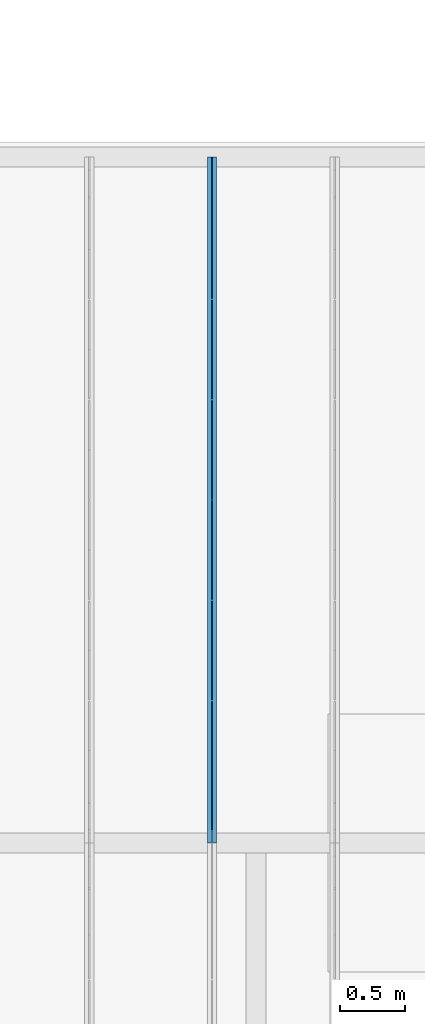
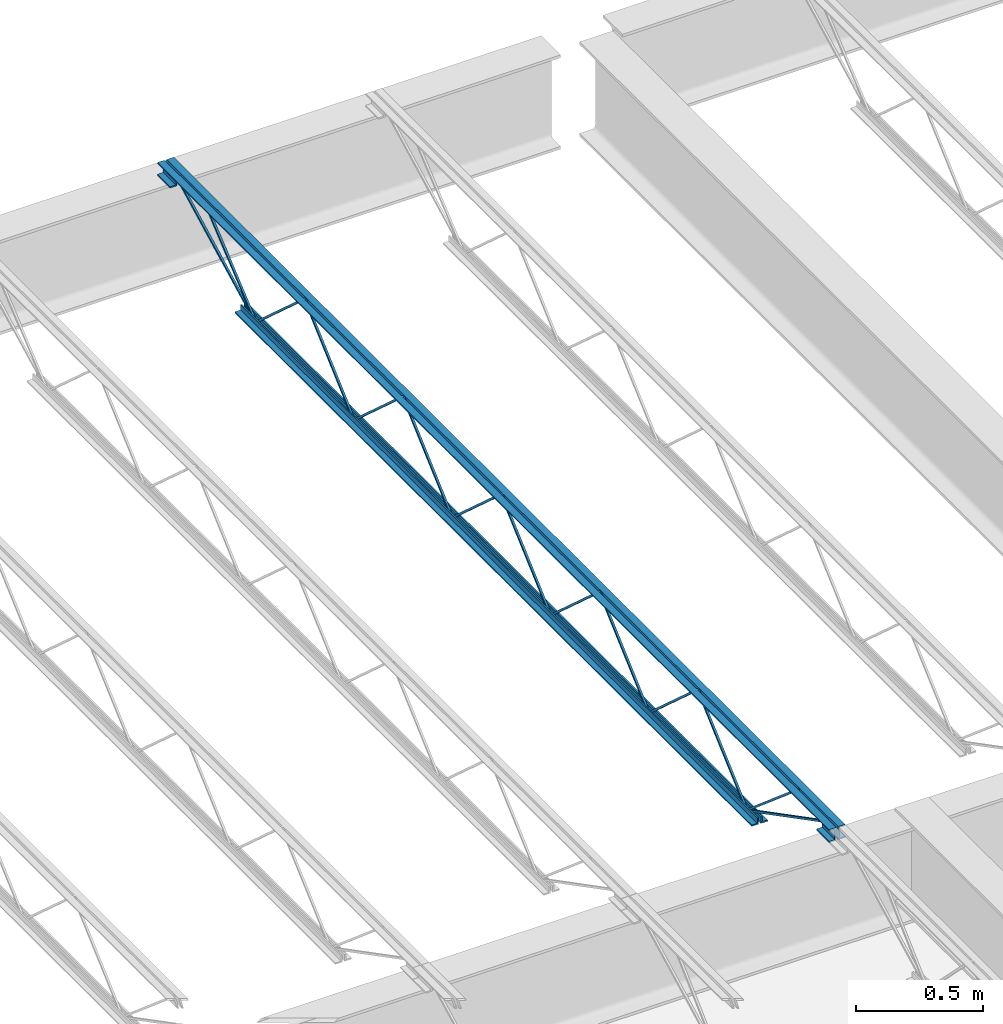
# One storey, part 70 of 75: 1 beam.
"""IFC2X3 building model written with IfcOpenShell, lengths in metres."""

from ifc_helpers import new_model, entity, si_unit, converted_unit, frame, origin, place, context, project, spatial, face_set, surface_model, element, save


model = new_model("IFC2X3")

# Units and contexts
model_context = context("Model", 3, precision=1e-09, world=origin())
plan_context = context("Plan", 3, precision=1e-09, world=origin())
ifc_project = project(units=[si_unit("LENGTHUNIT", "METRE"), si_unit("AREAUNIT", "SQUARE_METRE"), si_unit("VOLUMEUNIT", "CUBIC_METRE"), converted_unit("PLANEANGLEUNIT", "DEGREE", entity("IfcRatioMeasure", 0.01745329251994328), si_unit("PLANEANGLEUNIT", "RADIAN"), dimensions=[0, 0, 0, 0, 0, 0, 0]), si_unit("TIMEUNIT", "SECOND")], contexts=[model_context, plan_context])

# Site, building, storey
site_placement = place(None, origin())
site = spatial("IfcSite", under=ifc_project, at=site_placement, Name="Default", CompositionType="ELEMENT")
building_placement = place(site_placement, origin())
building = spatial("IfcBuilding", under=site, at=building_placement, CompositionType="ELEMENT")
storey_placement = place(building_placement, origin())
storey = spatial("IfcBuildingStorey", under=building, at=storey_placement, Name="First Floor", CompositionType="ELEMENT", Elevation=-3.531500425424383e-13)

# Beam
beam_placement = place(storey_placement, frame((-9.21674374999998, 44.78049999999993, 4.112000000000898), z_axis=(0.0, 0.0, 1.0), x_axis=(-1.0, 0.0, 0.0)))
element("IfcBeam", 1, at=beam_placement, inside=storey, Name="M_K-Series Bar Joist-Rod Web:14K1:14K1", ObjectType="M_K-Series Bar Joist-Rod Web:14K1", context=model_context, shape_type="SurfaceModel", body=[
    surface_model("IfcFaceBasedSurfaceModel", [(-0.03200000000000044, -2.266000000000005, 0.01110000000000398), (-0.04150000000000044, -2.266000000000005, 0.01110000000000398), (-0.04150000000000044, -2.266000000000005, 0.001600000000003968), (-0.03200000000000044, -2.266000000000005, 0.001600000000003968), (-0.04150000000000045, -2.264645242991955, 0.01110000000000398), (-0.03200000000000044, -2.264645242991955, 0.01110000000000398), (-0.04150000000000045, -2.261004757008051, 0.001600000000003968), (-0.04150000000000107, -1.878854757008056, 0.3449000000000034), (-0.04150000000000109, -1.876145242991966, 0.3449000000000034), (-0.04150000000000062, -1.493995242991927, 0.001600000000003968), (-0.04150000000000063, -1.489000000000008, 0.001600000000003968), (-0.04150000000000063, -1.489000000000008, 0.01110000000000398), (-0.04150000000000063, -1.490354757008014, 0.01110000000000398), (-0.0415, -1.872504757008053, 0.3544000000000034), (-0.04149999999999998, -1.88249524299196, 0.3544000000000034), (-0.03200000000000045, -2.261004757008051, 0.001600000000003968), (-0.03199999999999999, -1.878854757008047, 0.3449000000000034), (-0.03199999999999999, -1.876145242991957, 0.3449000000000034), (-0.03200000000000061, -1.493995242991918, 0.001600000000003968), (-0.03200000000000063, -1.489000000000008, 0.001600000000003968), (-0.03200000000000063, -1.489000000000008, 0.01110000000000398), (-0.03200000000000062, -1.490354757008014, 0.01110000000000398), (-0.03200000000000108, -1.872504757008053, 0.3544000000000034), (-0.03200000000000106, -1.88249524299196, 0.3544000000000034), (-0.03200000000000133, -3.043000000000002, 0.01110000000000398), (-0.04150000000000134, -3.043000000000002, 0.01110000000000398), (-0.04150000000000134, -3.043000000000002, 0.001600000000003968), (-0.03200000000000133, -3.043000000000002, 0.001600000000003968), (-0.04150000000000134, -3.041645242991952, 0.01110000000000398), (-0.03200000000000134, -3.041645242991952, 0.01110000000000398), (-0.04150000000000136, -3.038004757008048, 0.001600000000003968), (-0.04150000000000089, -2.655854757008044, 0.3449000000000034), (-0.0415000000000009, -2.653145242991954, 0.3449000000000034), (-0.04150000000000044, -2.270995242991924, 0.001600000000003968), (-0.04150000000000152, -2.266000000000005, 0.01110000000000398), (-0.04150000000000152, -2.267354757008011, 0.01110000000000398), (-0.0415000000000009, -2.649504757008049, 0.3544000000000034), (-0.04150000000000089, -2.659495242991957, 0.3544000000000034), (-0.03200000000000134, -3.038004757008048, 0.001600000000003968), (-0.03200000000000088, -2.655854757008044, 0.3449000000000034), (-0.03200000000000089, -2.653145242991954, 0.3449000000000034), (-0.03200000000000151, -2.270995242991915, 0.001600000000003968), (-0.03200000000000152, -2.266000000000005, 0.001600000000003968), (-0.03200000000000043, -2.267354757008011, 0.01110000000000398), (-0.0320000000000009, -2.649504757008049, 0.3544000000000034), (-0.03200000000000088, -2.659495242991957, 0.3544000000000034), (-0.03200000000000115, -3.819999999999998, 0.01110000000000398), (-0.04150000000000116, -3.819999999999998, 0.01110000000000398), (-0.04150000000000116, -3.819999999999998, 0.001600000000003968), (-0.03200000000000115, -3.819999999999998, 0.001600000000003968), (-0.04150000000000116, -3.818645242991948, 0.01110000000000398), (-0.03200000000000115, -3.818645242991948, 0.01110000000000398), (-0.04150000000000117, -3.815004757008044, 0.001600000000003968), (-0.0415000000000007, -3.432854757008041, 0.3449000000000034), (-0.04150000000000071, -3.43014524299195, 0.3449000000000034), (-0.04150000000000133, -3.047995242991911, 0.001600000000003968), (-0.04150000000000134, -3.042999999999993, 0.001600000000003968), (-0.04150000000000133, -3.044354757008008, 0.01110000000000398), (-0.04150000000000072, -3.426504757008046, 0.3544000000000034), (-0.0415000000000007, -3.436495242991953, 0.3544000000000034), (-0.03200000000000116, -3.815004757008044, 0.001600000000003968), (-0.0320000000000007, -3.432854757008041, 0.3449000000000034), (-0.0320000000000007, -3.43014524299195, 0.3449000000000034), (-0.03200000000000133, -3.047995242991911, 0.001600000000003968), (-0.03200000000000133, -3.042999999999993, 0.01110000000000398), (-0.03200000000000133, -3.044354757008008, 0.01110000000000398), (-0.03200000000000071, -3.426504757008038, 0.3544000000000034), (-0.0320000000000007, -3.436495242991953, 0.3544000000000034), (-0.03200000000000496, -1.489000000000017, 0.01109999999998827), (-0.04150000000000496, -1.489000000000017, 0.01109999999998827), (-0.04150000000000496, -1.489000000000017, 0.001599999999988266), (-0.03200000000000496, -1.489000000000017, 0.001599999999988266), (-0.04150000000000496, -1.487645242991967, 0.01109999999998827), (-0.03200000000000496, -1.487645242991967, 0.01109999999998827), (-0.04150000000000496, -1.484004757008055, 0.001599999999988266), (-0.04150000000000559, -1.101854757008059, 0.3448999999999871), (-0.04150000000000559, -1.099145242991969, 0.3448999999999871), (-0.04150000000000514, -0.7169952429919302, 0.001599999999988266), (-0.04150000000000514, -0.7120000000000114, 0.001599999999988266), (-0.04150000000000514, -0.7120000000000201, 0.01109999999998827), (-0.04150000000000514, -0.7133547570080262, 0.01109999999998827), (-0.04150000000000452, -1.095504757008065, 0.3543999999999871), (-0.0415000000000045, -1.105495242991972, 0.3543999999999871), (-0.03200000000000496, -1.484004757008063, 0.001599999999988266), (-0.0320000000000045, -1.101854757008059, 0.3448999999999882), (-0.0320000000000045, -1.099145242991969, 0.3448999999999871), (-0.03200000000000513, -0.7169952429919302, 0.001599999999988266), (-0.03200000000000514, -0.7120000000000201, 0.001599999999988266), (-0.03200000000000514, -0.7120000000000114, 0.01109999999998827), (-0.03200000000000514, -0.7133547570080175, 0.01109999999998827), (-0.03200000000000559, -1.095504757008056, 0.3543999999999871), (-0.03200000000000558, -1.105495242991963, 0.3543999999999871), (-0.03200000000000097, -4.596999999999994, 0.01110000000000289), (-0.04150000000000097, -4.596999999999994, 0.01110000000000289), (-0.04150000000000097, -4.596999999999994, 0.001600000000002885), (-0.03200000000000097, -4.596999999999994, 0.001600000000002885), (-0.04150000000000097, -4.595645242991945, 0.01110000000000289), (-0.03200000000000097, -4.595645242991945, 0.01110000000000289), (-0.04150000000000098, -4.592004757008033, 0.001600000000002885), (-0.04150000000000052, -4.209854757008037, 0.3449000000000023), (-0.04150000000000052, -4.207145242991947, 0.3449000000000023), (-0.04150000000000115, -3.824995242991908, 0.001600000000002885), (-0.04150000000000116, -3.819999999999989, 0.001600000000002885), (-0.04150000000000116, -3.819999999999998, 0.01110000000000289), (-0.04150000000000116, -3.821354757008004, 0.01110000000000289), (-0.04150000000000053, -4.203504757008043, 0.3544000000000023), (-0.04150000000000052, -4.21349524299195, 0.3544000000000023), (-0.03200000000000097, -4.592004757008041, 0.001600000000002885), (-0.03200000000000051, -4.209854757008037, 0.3449000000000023), (-0.03200000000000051, -4.207145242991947, 0.3449000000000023), (-0.03200000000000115, -3.824995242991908, 0.001600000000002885), (-0.03200000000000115, -3.819999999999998, 0.001600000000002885), (-0.03200000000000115, -3.819999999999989, 0.01110000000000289), (-0.03200000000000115, -3.821354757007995, 0.01110000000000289), (-0.03200000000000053, -4.203504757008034, 0.3544000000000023), (-0.03200000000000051, -4.21349524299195, 0.3544000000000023), (-0.04150000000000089, 0.0, 0.3559999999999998), (-0.07350000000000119, 0.0, 0.3559999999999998), (-0.07350000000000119, 0.0, 0.349499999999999), (-0.04800000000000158, 0.0, 0.349499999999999), (-0.04800000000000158, 0.0, 0.3239999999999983), (-0.04150000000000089, 0.0, 0.3239999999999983), (-0.03200000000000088, 0.0, 0.3559999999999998), (-0.03200000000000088, 0.0, 0.3239999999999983), (-0.02550000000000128, 0.0, 0.3239999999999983), (-0.02550000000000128, 0.0, 0.349499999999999), (0.0, 0.0, 0.349499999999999), (0.0, 0.0, 0.3559999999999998), (-0.0415000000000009, -5.308999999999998, 0.3559999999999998), (-0.0735000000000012, -5.308999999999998, 0.3559999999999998), (-0.0735000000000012, -5.308999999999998, 0.349499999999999), (-0.04800000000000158, -5.308999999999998, 0.349499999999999), (-0.04800000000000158, -5.308999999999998, 0.3239999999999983), (-0.0415000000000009, -5.308999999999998, 0.3239999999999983), (-0.03200000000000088, -5.308999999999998, 0.3559999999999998), (-0.03200000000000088, -5.308999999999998, 0.3239999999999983), (-0.02550000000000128, -5.308999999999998, 0.3239999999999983), (-0.02550000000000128, -5.308999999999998, 0.349499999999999), (0.0, -5.308999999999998, 0.349499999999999), (0.0, -5.308999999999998, 0.3559999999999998), (-0.03200000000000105, -5.209000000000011, 0.2924999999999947), (0.0, -5.209000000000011, 0.2924999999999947), (0.0, -5.209000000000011, 0.2989999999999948), (-0.02550000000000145, -5.209000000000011, 0.2989999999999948), (-0.02550000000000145, -5.209000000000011, 0.3239999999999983), (-0.03200000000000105, -5.209000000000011, 0.3239999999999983), (-0.07350000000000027, -5.209000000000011, 0.2924999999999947), (-0.04150000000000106, -5.209000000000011, 0.2924999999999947), (-0.04150000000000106, -5.209000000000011, 0.3239999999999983), (-0.04800000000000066, -5.209000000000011, 0.3239999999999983), (-0.04800000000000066, -5.209000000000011, 0.2989999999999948), (-0.07350000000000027, -5.209000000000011, 0.2989999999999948), (-0.03200000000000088, -5.308999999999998, 0.2924999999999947), (0.0, -5.308999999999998, 0.2924999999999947), (0.0, -5.308999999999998, 0.2989999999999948), (-0.02550000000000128, -5.308999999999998, 0.2989999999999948), (-0.07350000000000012, -5.308999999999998, 0.2924999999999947), (-0.0415000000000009, -5.308999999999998, 0.2924999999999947), (-0.0480000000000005, -5.308999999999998, 0.3239999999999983), (-0.0480000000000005, -5.308999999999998, 0.2989999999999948), (-0.07350000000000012, -5.308999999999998, 0.2989999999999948), (-0.04150000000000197, 0.0, 0.2924999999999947), (-0.04150000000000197, 0.0, 0.3239999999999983), (-0.04800000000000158, 0.0, 0.2989999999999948), (-0.07350000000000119, 0.0, 0.2989999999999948), (-0.07350000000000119, 0.0, 0.2924999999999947), (-0.03200000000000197, 0.0, 0.2924999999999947), (0.0, 0.0, 0.2924999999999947), (0.0, 0.0, 0.2989999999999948), (-0.02550000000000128, 0.0, 0.2989999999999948), (-0.03200000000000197, 0.0, 0.3239999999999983), (-0.04150000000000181, -0.0999999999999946, 0.2924999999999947), (-0.04150000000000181, -0.0999999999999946, 0.3239999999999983), (-0.04800000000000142, -0.0999999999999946, 0.3239999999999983), (-0.04800000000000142, -0.0999999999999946, 0.2989999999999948), (-0.07350000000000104, -0.0999999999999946, 0.2989999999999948), (-0.07350000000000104, -0.0999999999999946, 0.2924999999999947), (-0.03200000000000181, -0.0999999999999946, 0.2924999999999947), (0.0, -0.0999999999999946, 0.2924999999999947), (0.0, -0.0999999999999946, 0.2989999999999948), (-0.02550000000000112, -0.0999999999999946, 0.2989999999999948), (-0.02550000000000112, -0.0999999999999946, 0.3239999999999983), (-0.03200000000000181, -0.0999999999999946, 0.3239999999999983), (-0.04150000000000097, -0.6119999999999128, 0.0), (-0.04150000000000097, -0.6119999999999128, 0.03199999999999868), (-0.04800000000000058, -0.6119999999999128, 0.03199999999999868), (-0.04800000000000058, -0.6119999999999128, 0.006499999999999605), (-0.07350000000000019, -0.6119999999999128, 0.006499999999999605), (-0.07350000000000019, -0.6119999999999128, 0.0), (-0.03200000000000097, -0.6119999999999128, 0.0), (0.0, -0.6119999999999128, 0.0), (0.0, -0.6119999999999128, 0.006499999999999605), (-0.02550000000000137, -0.6119999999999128, 0.006499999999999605), (-0.02550000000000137, -0.6119999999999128, 0.03199999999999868), (-0.03200000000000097, -0.6119999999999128, 0.03199999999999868), (-0.04150000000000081, -4.696999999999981, 0.0), (-0.04150000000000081, -4.696999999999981, 0.03199999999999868), (-0.04800000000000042, -4.696999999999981, 0.03199999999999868), (-0.04800000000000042, -4.696999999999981, 0.006499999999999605), (-0.07350000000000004, -4.696999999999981, 0.006499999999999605), (-0.07350000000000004, -4.696999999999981, 0.0), (-0.0320000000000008, -4.696999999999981, 0.0), (0.0, -4.696999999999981, 0.0), (0.0, -4.696999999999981, 0.006499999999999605), (-0.0255000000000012, -4.696999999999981, 0.006499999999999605), (-0.0255000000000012, -4.696999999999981, 0.03199999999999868), (-0.0320000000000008, -4.696999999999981, 0.03199999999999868), (-0.03200000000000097, -4.594811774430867, 0.01056594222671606), (-0.04150000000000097, -4.594811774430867, 0.01056594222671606), (-0.04150000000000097, -4.599188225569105, 0.002134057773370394), (-0.03200000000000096, -4.599188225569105, 0.002134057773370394), (-0.03200000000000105, -5.207840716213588, 0.3287499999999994), (-0.03200000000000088, -5.308999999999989, 0.3287499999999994), (-0.03200000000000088, -5.308999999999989, 0.3192499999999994), (-0.03200000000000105, -5.210159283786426, 0.3192499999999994), (-0.04150000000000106, -5.210159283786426, 0.3192499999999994), (-0.04150000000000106, -5.207840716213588, 0.3287499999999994), (-0.0415000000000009, -5.308999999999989, 0.3287499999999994), (-0.0415000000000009, -5.308999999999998, 0.3192499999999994), (-0.03200000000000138, -5.005457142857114, 0.341700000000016), (-0.04150000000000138, -5.005457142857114, 0.341700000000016), (-0.04150000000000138, -5.005457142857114, 0.332200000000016), (-0.03200000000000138, -5.005457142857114, 0.332200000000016), (-0.04150000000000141, -4.991034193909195, 0.341700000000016), (-0.0320000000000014, -4.991034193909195, 0.341700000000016), (-0.0415000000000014, -4.99448009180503, 0.332200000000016), (-0.04150000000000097, -4.600045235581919, 0.002704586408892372), (-0.04150000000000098, -4.593954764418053, 0.009995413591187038), (-0.0320000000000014, -4.99448009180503, 0.332200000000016), (-0.03200000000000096, -4.600045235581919, 0.002704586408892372), (-0.03200000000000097, -4.593954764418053, 0.009995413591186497), (-0.03200000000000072, -0.09781177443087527, 0.3197840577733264), (-0.03200000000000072, -0.1021882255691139, 0.3282159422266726), (-0.04150000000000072, -0.1021882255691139, 0.3282159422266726), (-0.04150000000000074, -0.09781177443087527, 0.3197840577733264), (-0.03200000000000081, -0.7098117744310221, 0.002134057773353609), (-0.0320000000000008, -0.7141882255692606, 0.01056594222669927), (-0.04150000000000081, -0.7141882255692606, 0.01056594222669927), (-0.04150000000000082, -0.7098117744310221, 0.002134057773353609), (-0.03200000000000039, -0.3059055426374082, 0.3460340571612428), (-0.03200000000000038, -0.3120658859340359, 0.3532659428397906), (-0.04150000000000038, -0.3120658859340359, 0.3532659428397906), (-0.04150000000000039, -0.3059055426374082, 0.3460340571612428), (-0.03200000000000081, -0.7089198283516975, 0.002734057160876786), (-0.0320000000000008, -0.7150801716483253, 0.009965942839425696), (-0.04150000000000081, -0.7150801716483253, 0.009965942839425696), (-0.04150000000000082, -0.7089198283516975, 0.002734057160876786)], [face_set([[[0, 1, 2, 3]], [[1, 4, 5, 0]], [[2, 6, 7, 8, 9, 10, 11, 12, 13, 14, 4, 1]], [[3, 2, 6, 15]], [[0, 3, 15, 16, 17, 18, 19, 20, 21, 22, 23, 5]], [[4, 5, 23, 14]], [[15, 16, 7, 6]], [[14, 13, 22, 23]], [[16, 7, 8, 17]], [[13, 12, 21, 22]], [[17, 8, 9, 18]], [[20, 11, 10, 19]], [[12, 11, 20, 21]], [[18, 9, 10, 19]]]), face_set([[[24, 25, 26, 27]], [[25, 28, 29, 24]], [[26, 30, 31, 32, 33, 2, 34, 35, 36, 37, 28, 25]], [[27, 26, 30, 38]], [[24, 27, 38, 39, 40, 41, 42, 0, 43, 44, 45, 29]], [[28, 29, 45, 37]], [[38, 39, 31, 30]], [[37, 36, 44, 45]], [[39, 31, 32, 40]], [[36, 35, 43, 44]], [[40, 32, 33, 41]], [[0, 34, 2, 42]], [[35, 34, 0, 43]], [[41, 33, 2, 42]]]), face_set([[[46, 47, 48, 49]], [[47, 50, 51, 46]], [[48, 52, 53, 54, 55, 56, 25, 57, 58, 59, 50, 47]], [[49, 48, 52, 60]], [[46, 49, 60, 61, 62, 63, 27, 64, 65, 66, 67, 51]], [[50, 51, 67, 59]], [[60, 61, 53, 52]], [[59, 58, 66, 67]], [[61, 53, 54, 62]], [[58, 57, 65, 66]], [[62, 54, 55, 63]], [[64, 25, 56, 27]], [[57, 25, 64, 65]], [[63, 55, 56, 27]]]), face_set([[[68, 69, 70, 71]], [[69, 72, 73, 68]], [[70, 74, 75, 76, 77, 78, 79, 80, 81, 82, 72, 69]], [[71, 70, 74, 83]], [[68, 71, 83, 84, 85, 86, 87, 88, 89, 90, 91, 73]], [[72, 73, 91, 82]], [[83, 84, 75, 74]], [[82, 81, 90, 91]], [[84, 75, 76, 85]], [[81, 80, 89, 90]], [[85, 76, 77, 86]], [[88, 79, 78, 87]], [[80, 79, 88, 89]], [[86, 77, 78, 87]]]), face_set([[[92, 93, 94, 95]], [[93, 96, 97, 92]], [[94, 98, 99, 100, 101, 102, 103, 104, 105, 106, 96, 93]], [[95, 94, 98, 107]], [[92, 95, 107, 108, 109, 110, 111, 112, 113, 114, 115, 97]], [[96, 97, 115, 106]], [[107, 108, 99, 98]], [[106, 105, 114, 115]], [[108, 99, 100, 109]], [[105, 104, 113, 114]], [[109, 100, 101, 110]], [[112, 103, 102, 111]], [[104, 103, 112, 113]], [[110, 101, 102, 111]]]), face_set([[[116, 117, 118, 119, 120, 121]], [[122, 123, 124, 125, 126, 127]], [[128, 129, 130, 131, 132, 133]], [[134, 135, 136, 137, 138, 139]], [[121, 116, 128, 133]], [[120, 121, 133, 132]], [[119, 131, 132, 120]], [[118, 119, 131, 130]], [[117, 129, 130, 118]], [[116, 128, 129, 117]], [[127, 139, 134, 122]], [[126, 127, 139, 138]], [[125, 126, 138, 137]], [[124, 125, 137, 136]], [[123, 124, 136, 135]], [[122, 134, 135, 123]]]), face_set([[[140, 141, 142, 143, 144, 145]], [[146, 147, 148, 149, 150, 151]], [[152, 153, 154, 155, 136, 135]], [[156, 157, 133, 158, 159, 160]], [[145, 135, 152, 140]], [[144, 136, 135, 145]], [[143, 144, 136, 155]], [[142, 154, 155, 143]], [[141, 142, 154, 153]], [[140, 141, 153, 152]], [[151, 160, 156, 146]], [[150, 159, 160, 151]], [[149, 158, 159, 150]], [[148, 133, 158, 149]], [[147, 148, 133, 157]], [[146, 147, 157, 156]]]), face_set([[[161, 162, 120, 163, 164, 165]], [[166, 167, 168, 169, 124, 170]], [[171, 172, 173, 174, 175, 176]], [[177, 178, 179, 180, 181, 182]], [[165, 161, 171, 176]], [[164, 175, 176, 165]], [[163, 174, 175, 164]], [[120, 173, 174, 163]], [[162, 172, 173, 120]], [[161, 162, 172, 171]], [[170, 182, 177, 166]], [[124, 181, 182, 170]], [[169, 124, 181, 180]], [[168, 179, 180, 169]], [[167, 168, 179, 178]], [[166, 167, 178, 177]]]), face_set([[[183, 184, 185, 186, 187, 188]], [[189, 190, 191, 192, 193, 194]], [[195, 196, 197, 198, 199, 200]], [[201, 202, 203, 204, 205, 206]], [[188, 183, 195, 200]], [[187, 199, 200, 188]], [[186, 198, 199, 187]], [[185, 197, 198, 186]], [[184, 196, 197, 185]], [[183, 184, 196, 195]], [[194, 206, 201, 189]], [[193, 205, 206, 194]], [[192, 193, 205, 204]], [[191, 203, 204, 192]], [[190, 191, 203, 202]], [[189, 190, 202, 201]]]), face_set([[[207, 208, 209, 210]], [[210, 207, 211, 212, 213, 214]], [[209, 210, 214, 215]], [[208, 216, 217, 218, 215, 209]], [[207, 211, 216, 208]], [[212, 217, 218, 213]], [[215, 214, 213, 218]], [[211, 212, 217, 216]]]), face_set([[[219, 220, 221, 222]], [[220, 223, 224, 219]], [[221, 225, 226, 227, 223, 220]], [[222, 221, 225, 228]], [[219, 222, 228, 229, 230, 224]], [[230, 227, 226, 229]], [[223, 227, 230, 224]], [[228, 225, 226, 229]]]), face_set([[[231, 232, 233, 234]], [[235, 236, 237, 238]], [[234, 238, 235, 231]], [[233, 237, 238, 234]], [[232, 233, 237, 236]], [[231, 232, 236, 235]]]), face_set([[[239, 240, 241, 242]], [[243, 244, 245, 246]], [[242, 246, 243, 239]], [[241, 245, 246, 242]], [[240, 241, 245, 244]], [[239, 240, 244, 243]]])]),
])

save(model, "model.ifc")
